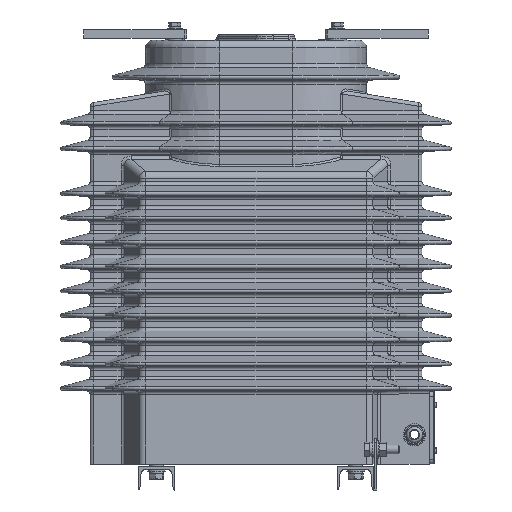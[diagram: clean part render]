
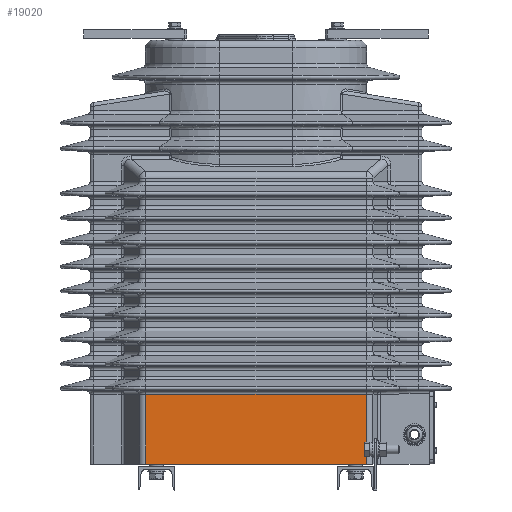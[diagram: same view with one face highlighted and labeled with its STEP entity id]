
A CAD part, left-side view. The second image highlights one B-rep face of the part: STEP entity #19020.
In plain terms, the highlighted planar face has unit normal (-1, 0, 0).
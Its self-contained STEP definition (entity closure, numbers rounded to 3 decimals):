
#19020=ADVANCED_FACE('',(#38852),#38854,.T.);
#38852=FACE_BOUND('',#38853,.T.);
#38853=EDGE_LOOP('',(#50748,#50749,#50750,#50751));
#38854=PLANE('',#38855);
#38855=AXIS2_PLACEMENT_3D('',#38856,#38857,#38858);
#38856=CARTESIAN_POINT('',(-125.,-156.,415.));
#38857=DIRECTION('',(-1.,0.,-0.));
#38858=DIRECTION('',(0.,1.,0.));
#50748=ORIENTED_EDGE('',*,*,#56518,.F.);
#50749=ORIENTED_EDGE('',*,*,#56519,.T.);
#50750=ORIENTED_EDGE('',*,*,#56441,.F.);
#50751=ORIENTED_EDGE('',*,*,#56517,.F.);
#56441=EDGE_CURVE('',#63435,#63437,#63438,.T.);
#56517=EDGE_CURVE('',#63556,#63435,#63563,.T.);
#56518=EDGE_CURVE('',#63564,#63556,#63565,.F.);
#56519=EDGE_CURVE('',#63564,#63437,#63566,.T.);
#63435=VERTEX_POINT('',#82063);
#63437=VERTEX_POINT('',#82068);
#63438=LINE('',#82069,#82070);
#63556=VERTEX_POINT('',#82609);
#63563=LINE('',#82629,#82630);
#63564=VERTEX_POINT('',#82632);
#63565=LINE('',#82633,#82634);
#63566=LINE('',#82636,#82637);
#82063=CARTESIAN_POINT('',(-125.,-149.708,0.));
#82068=CARTESIAN_POINT('',(-125.,149.708,0.));
#82069=CARTESIAN_POINT('',(-125.,-149.708,0.));
#82070=VECTOR('',#82071,1.);
#82071=DIRECTION('',(0.,1.,0.));
#82609=CARTESIAN_POINT('',(-125.,-149.708,94.646));
#82629=CARTESIAN_POINT('',(-125.,-149.708,94.646));
#82630=VECTOR('',#82631,1.);
#82631=DIRECTION('',(0.,0.,-1.));
#82632=CARTESIAN_POINT('',(-125.,149.708,94.646));
#82633=CARTESIAN_POINT('',(-125.,-149.708,94.646));
#82634=VECTOR('',#82635,1.);
#82635=DIRECTION('',(0.,1.,0.));
#82636=CARTESIAN_POINT('',(-125.,149.708,94.646));
#82637=VECTOR('',#82638,1.);
#82638=DIRECTION('',(0.,0.,-1.));
